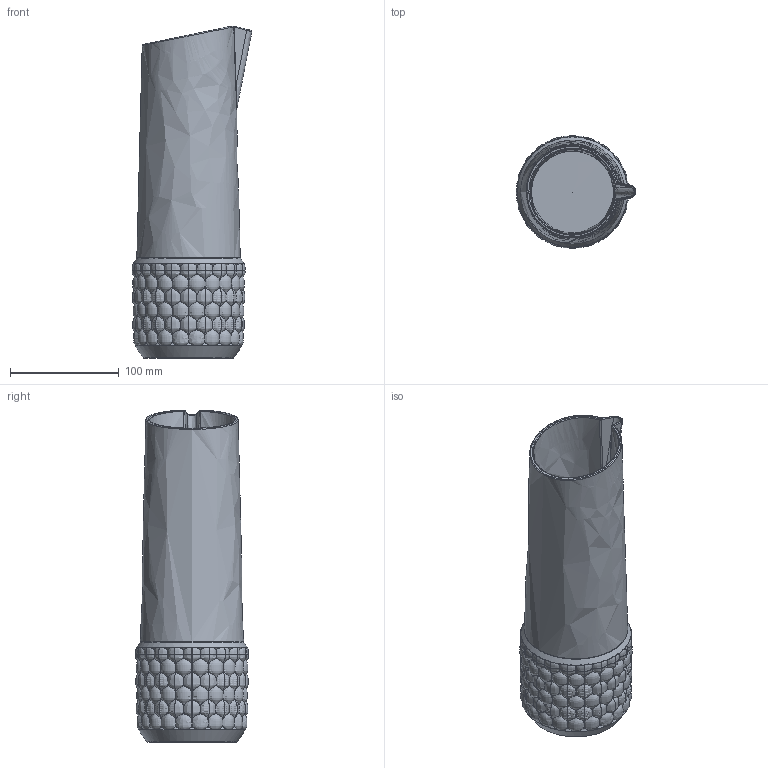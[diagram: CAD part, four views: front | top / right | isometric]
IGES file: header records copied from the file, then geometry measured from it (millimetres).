
Global section: file name: D:\3ddFactory\3D_Kartell\da controllare_3dd\Tavolo urquiola\1490\Jellies Family_3d_Patricia Urquiola_Kartell.igs; native system: Rhinoceros ( Mar 10 2014 ); preprocessor: Trout Lake IGES 012 Mar 10 2014; date: 180210.105242; units: millimetre
Bounding box: 110.09 x 103.75 x 305 mm (x, y, z)
Surface area: 174939.1 mm2 (no closed solid volume)
Topology: 0 solids, 0 shells, 301 faces, 11513 edges, 11201 vertices
Faces by surface type: bspline 301
